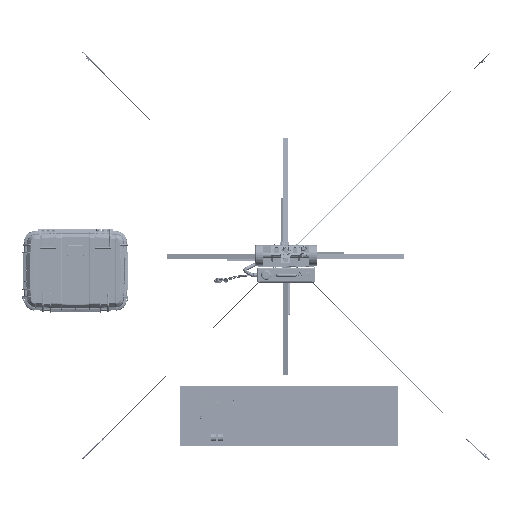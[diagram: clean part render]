
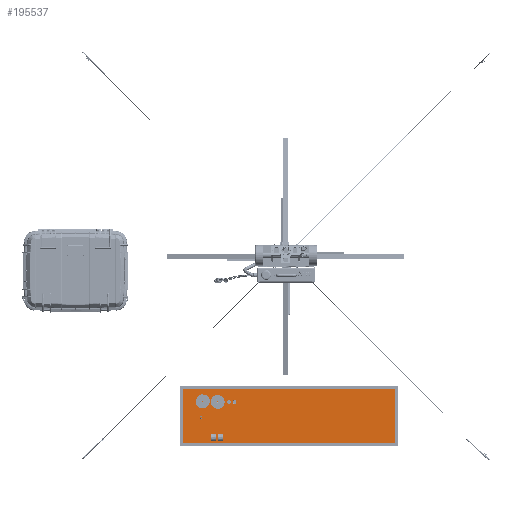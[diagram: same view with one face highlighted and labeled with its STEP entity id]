
A CAD part, top view. The second image highlights one B-rep face of the part: STEP entity #195537.
In plain terms, the highlighted planar face has unit normal (0.003, 0, 1).
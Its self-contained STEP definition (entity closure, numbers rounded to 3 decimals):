
#23196=PLANE('',#218256);
#31679=FACE_OUTER_BOUND('',#41885,.T.);
#41885=EDGE_LOOP('',(#182598,#182599,#182600,#182601));
#54280=LINE('',#557118,#66653);
#54282=LINE('',#557122,#66655);
#54284=LINE('',#557126,#66657);
#54286=LINE('',#557129,#66659);
#66653=VECTOR('',#273834,10.);
#66655=VECTOR('',#273838,10.);
#66657=VECTOR('',#273842,10.);
#66659=VECTOR('',#273846,10.);
#101694=VERTEX_POINT('',#557115);
#101695=VERTEX_POINT('',#557117);
#101696=VERTEX_POINT('',#557121);
#101697=VERTEX_POINT('',#557125);
#133906=EDGE_CURVE('',#101694,#101695,#54280,.T.);
#133908=EDGE_CURVE('',#101695,#101696,#54282,.T.);
#133910=EDGE_CURVE('',#101696,#101697,#54284,.T.);
#133912=EDGE_CURVE('',#101697,#101694,#54286,.T.);
#182598=ORIENTED_EDGE('',*,*,#133910,.F.);
#182599=ORIENTED_EDGE('',*,*,#133908,.F.);
#182600=ORIENTED_EDGE('',*,*,#133906,.F.);
#182601=ORIENTED_EDGE('',*,*,#133912,.F.);
#195537=ADVANCED_FACE('',(#31679),#23196,.F.);
#218256=AXIS2_PLACEMENT_3D('',#557130,#273847,#273848);
#273834=DIRECTION('',(0.,-1.,0.));
#273838=DIRECTION('',(-1.,0.,0.003));
#273842=DIRECTION('',(0.,1.,0.));
#273846=DIRECTION('',(1.,0.,-0.003));
#273847=DIRECTION('center_axis',(-0.003,0.,
-1.));
#273848=DIRECTION('ref_axis',(1.,0.,-0.003));
#557115=CARTESIAN_POINT('',(861.813,-939.163,-3554.855));
#557117=CARTESIAN_POINT('',(861.813,-1305.563,-3554.855));
#557118=CARTESIAN_POINT('',(861.813,-1305.563,-3554.855));
#557121=CARTESIAN_POINT('',(-571.379,-1305.563,-3550.096));
#557122=CARTESIAN_POINT('',(-571.379,-1305.563,-3550.096));
#557125=CARTESIAN_POINT('',(-571.379,-939.163,-3550.096));
#557126=CARTESIAN_POINT('',(-571.379,-939.163,-3550.096));
#557129=CARTESIAN_POINT('',(861.813,-939.163,-3554.855));
#557130=CARTESIAN_POINT('Origin',(145.217,-1122.363,-3552.475));
